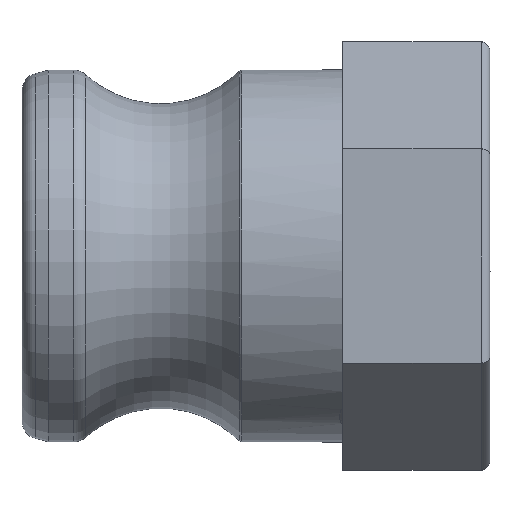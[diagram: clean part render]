
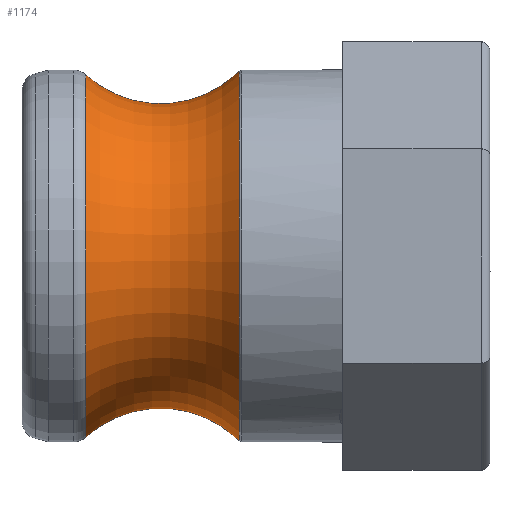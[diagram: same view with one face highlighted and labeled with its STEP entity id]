
A CAD part, front view. The second image highlights one B-rep face of the part: STEP entity #1174.
In plain terms, the highlighted toroidal (fillet/blend) face has major radius 22.746 mm and minor radius 9.601 mm.
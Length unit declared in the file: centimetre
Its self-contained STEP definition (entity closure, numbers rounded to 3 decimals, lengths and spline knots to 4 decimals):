
#105=TOROIDAL_SURFACE('',#1256,2.2746,0.9601);
#417=VERTEX_POINT('',#23814);
#418=VERTEX_POINT('',#23818);
#441=CIRCLE('',#1254,1.5962);
#442=CIRCLE('',#1257,1.5654);
#608=EDGE_CURVE('',#417,#417,#441,.T.);
#609=EDGE_CURVE('',#418,#418,#442,.T.);
#939=ORIENTED_EDGE('',*,*,#609,.F.);
#940=ORIENTED_EDGE('',*,*,#608,.F.);
#1020=EDGE_LOOP('',(#939));
#1021=EDGE_LOOP('',(#940));
#1101=FACE_BOUND('',#1020,.T.);
#1102=FACE_BOUND('',#1021,.T.);
#1174=ADVANCED_FACE('',(#1101,#1102),#105,.F.);
#1254=AXIS2_PLACEMENT_3D('',#23813,#24016,#24017);
#1256=AXIS2_PLACEMENT_3D('',#23816,#24020,$);
#1257=AXIS2_PLACEMENT_3D('',#23817,#24021,#24022);
#23813=CARTESIAN_POINT('',(-0.8928,0.,0.));
#23814=CARTESIAN_POINT('',(-0.8928,1.5953,0.0549));
#23816=CARTESIAN_POINT('',(-1.5723,0.,0.));
#23817=CARTESIAN_POINT('',(-2.2195,0.,0.));
#23818=CARTESIAN_POINT('',(-2.2195,1.5645,0.0538));
#24016=DIRECTION('',(1.,0.,0.));
#24017=DIRECTION('',(0.,-1.595,-0.055));
#24020=DIRECTION('',(-1.,0.,0.));
#24021=DIRECTION('',(-1.,0.,0.));
#24022=DIRECTION('',(0.,1.565,0.054));
